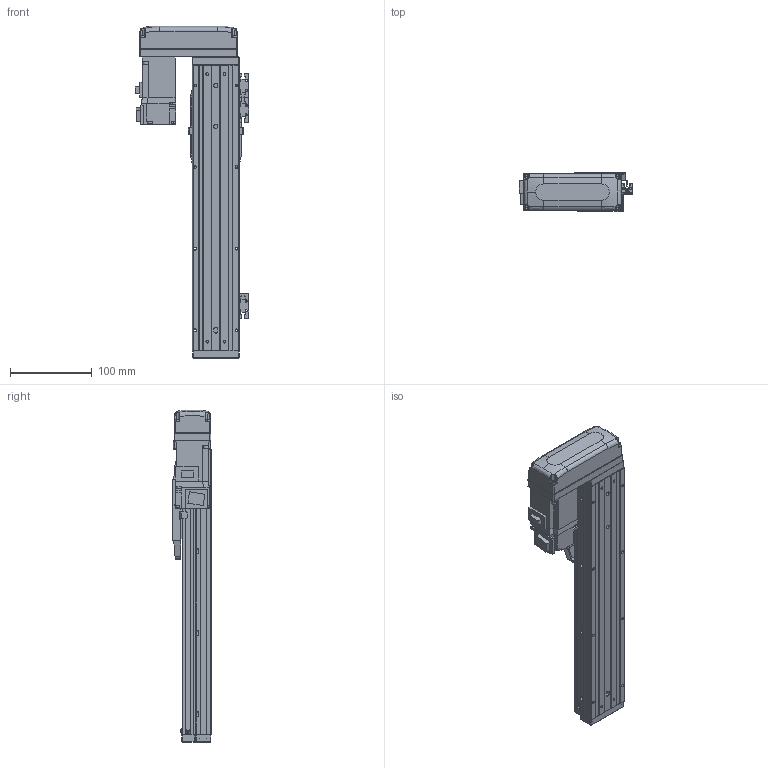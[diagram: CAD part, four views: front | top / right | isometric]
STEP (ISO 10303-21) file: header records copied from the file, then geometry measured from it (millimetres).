
FILE_DESCRIPTION (( 'STEP AP203' ), '1' );
FILE_NAME ('CTHA50-200-BR-M10-C4L.step', '2022-03-19T06:06:22', ( '微软用户' ), ( '微软中国' ), 'SwSTEP 2.0', 'SolidWorks 2020', '' );
FILE_SCHEMA (( 'CONFIG_CONTROL_DESIGN' ));
Length unit declared in the file: millimetre
Products named in the file (20): GB¨uT 70.2-M3¡Á6_M3¡Á6; CTHA60-021; CTHA60-033; EE_SX911P_R; HG-KR13（三菱）; GBT 70.1-M3×15; GBT77-2000 M3×3; CTHA50-002; CTHA50-200-BR-M10-C4L; GBT 70.1-M3℅6; CTHA50-030; KTHA50-001_350; CTHA60-017; CTHA50-031; KTHA50-004; GBT 70.1-M4×12; GBT 70.3-M3℅6; KTHA50-005; CTHA60-016; CTHA50-015-2_CTHA60-015-2
Assembly tree (60 placements, depth 2):
  CTHA50-200-BR-M10-C4L
    KTHA50-001_350
    KTHA50-004
    KTHA50-005
    GB¨uT 70.2-M3¡Á6_M3¡Á6  x10
    EE_SX911P_R  x3
    GBT77-2000 M3×3  x6
    GBT 70.1-M3℅6  x6
    CTHA60-017  x3
    GBT 70.1-M4×12  x10
    CTHA60-016  x2
    CTHA60-021  x2
    HG-KR13（三菱）
    CTHA50-002
    CTHA50-030  x2
    CTHA50-031
    GBT 70.3-M3℅6  x4
    CTHA50-015-2_CTHA60-015-2
    CTHA60-033
    GBT 70.1-M3×15  x4
Bounding box: 139.12 x 48 x 407 mm (x, y, z)
Volume: 945901.9 mm3; surface area: 247425.4 mm2
Topology: 62 solids, 62 shells, 2473 faces, 5855 edges, 3582 vertices
Faces by surface type: plane 1398, cylinder 570, cone 347, torus 108, bspline 26, sphere 24
Entity records: 41393 total; most frequent: CARTESIAN_POINT 7659, DIRECTION 6425, ORIENTED_EDGE 6218, EDGE_CURVE 3109, LINE 2169, VECTOR 2169, AXIS2_PLACEMENT_3D 2128, VERTEX_POINT 1956
